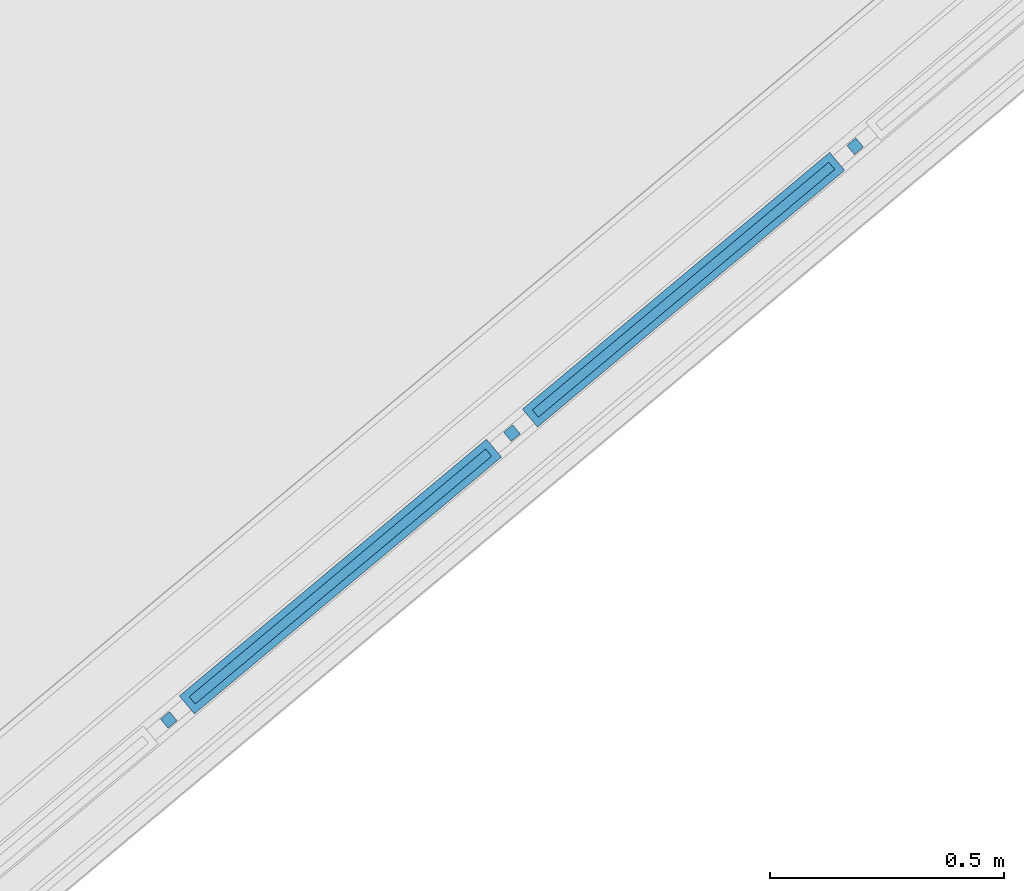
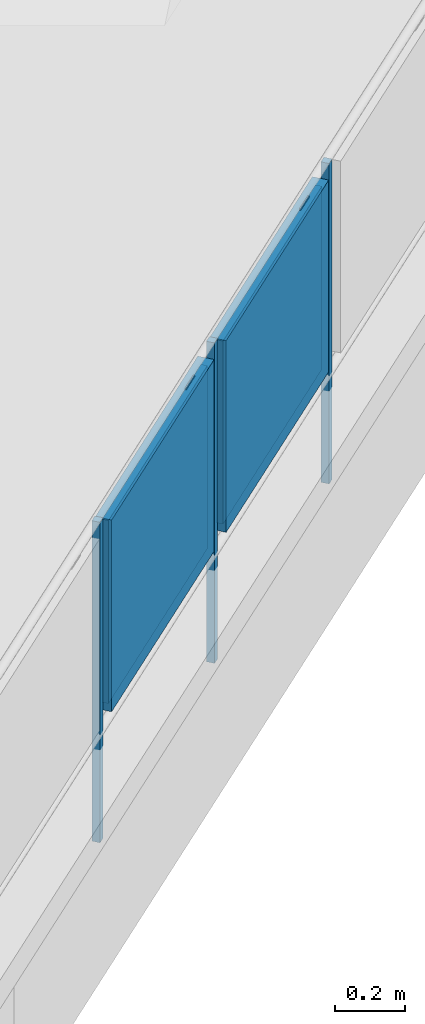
# One storey, part 19 of 53: 7 building element parts, 1 element without a shape of its own.
"""IFC4 building model written with IfcOpenShell, lengths in metres."""

import ifcopenshell
import ifcopenshell.guid

model = None  # the IFC model being written
_history = None  # IfcOwnerHistory: only IFC2X3 demands one
_inside = {}  # id of a spatial element -> (the spatial element, [elements in it])
_under = {}  # id of a project, library or spatial element -> (it, [spatial elements below it])
_declared = {}  # id of a project -> (the project, [libraries it declares])
_typed = {}  # id of a type object -> (the type object, [elements of that type])
_made_of = {}  # id of a material, layer set ... -> (it, [elements and type objects made of it])


def new_model(schema):
    """Start an empty IFC model of exactly this schema.

    Asked for "IFC4X3", IfcOpenShell would pick the latest addendum, in which some entities
    have other attributes; the version numbers below select the first issue.
    IFC2X3 requires an IfcOwnerHistory on every rooted entity: one is made here for all.
    """
    global model, _history
    if schema == "IFC4X3":
        model = ifcopenshell.file(schema_version=(4, 3, 0, 0))
    else:
        model = ifcopenshell.file(schema=schema)
    _inside.clear()
    _under.clear()
    _declared.clear()
    _typed.clear()
    _made_of.clear()
    _history = None
    if model.schema == "IFC2X3":
        org = make("IfcOrganization", Name="unknown")
        user = make(
            "IfcPersonAndOrganization",
            ThePerson=make("IfcPerson", FamilyName="unknown"),
            TheOrganization=org,
        )
        app = make(
            "IfcApplication",
            ApplicationDeveloper=org,
            Version="unknown",
            ApplicationFullName="unknown",
            ApplicationIdentifier="unknown",
        )
        _history = make(
            "IfcOwnerHistory",
            OwningUser=user,
            OwningApplication=app,
            ChangeAction="ADDED",
            CreationDate=0,
        )
    return model


def make(cls, **values):
    """One entity of the class cls with the attributes given. An attribute that is None is left unset."""
    return model.create_entity(
        cls, **{name: value for name, value in values.items() if value is not None}
    )


def entity(cls, *values):
    """Any entity or typed value of the class cls, its attributes in the order of the schema. None: left unset."""
    e = model.create_entity(cls)
    for i, value in enumerate(values):
        if value is not None:
            e[i] = value
    return e


def rooted(cls, **values):
    """An entity with a GlobalId (a new one), such as an element, a storey or a relation."""
    return make(cls, GlobalId=ifcopenshell.guid.new(), OwnerHistory=_history, **values)


def si_unit(unit_type, name, prefix=None):
    """IfcSIUnit, for example si_unit("LENGTHUNIT", "METRE", prefix="MILLI")."""
    return make("IfcSIUnit", UnitType=unit_type, Prefix=prefix, Name=name)


def converted_unit(unit_type, name, factor, base, dimensions=None, offset=None):
    """IfcConversionBasedUnit, such as the inch: factor (a typed value) times the base unit."""
    return make(
        "IfcConversionBasedUnit"
        if offset is None
        else "IfcConversionBasedUnitWithOffset",
        ConversionOffset=offset,
        Dimensions=None
        if dimensions is None
        else entity("IfcDimensionalExponents", *dimensions),
        UnitType=unit_type,
        Name=name,
        ConversionFactor=make(
            "IfcMeasureWithUnit", ValueComponent=factor, UnitComponent=base
        ),
    )


def derived_unit(unit_type, elements):
    """IfcDerivedUnit: a product of units, each with its exponent."""
    return make(
        "IfcDerivedUnit",
        Elements=[
            make("IfcDerivedUnitElement", Unit=unit, Exponent=power)
            for unit, power in elements
        ],
        UnitType=unit_type,
    )


def assignment(units):
    """IfcUnitAssignment: the units of a project."""
    return None if units is None else make("IfcUnitAssignment", Units=units)


def point(xyz):
    """IfcCartesianPoint."""
    return None if xyz is None else make("IfcCartesianPoint", Coordinates=xyz)


def direction(xyz):
    """IfcDirection."""
    return None if xyz is None else make("IfcDirection", DirectionRatios=xyz)


def frame(location, z_axis=None, x_axis=None):
    """IfcAxis2Placement3D, a coordinate frame: its origin and axes. An axis left out is left unset."""
    return make(
        "IfcAxis2Placement3D",
        Location=point(location),
        Axis=direction(z_axis),
        RefDirection=direction(x_axis),
    )


def origin_with_axes():
    """The frame at (0, 0, 0) with the z axis (0, 0, 1) and the x axis (1, 0, 0) written out."""
    return frame((0.0, 0.0, 0.0), z_axis=(0.0, 0.0, 1.0), x_axis=(1.0, 0.0, 0.0))


def place(relative_to, where):
    """IfcLocalPlacement: puts the frame where relative to a parent placement (None: the world)."""
    return make(
        "IfcLocalPlacement", PlacementRelTo=relative_to, RelativePlacement=where
    )


def context(
    kind, dimensions, precision=None, world=None, true_north=None, identifier=None
):
    """IfcGeometricRepresentationContext, for example the 3D "Model" context."""
    return make(
        "IfcGeometricRepresentationContext",
        ContextIdentifier=identifier,
        ContextType=kind,
        CoordinateSpaceDimension=dimensions,
        Precision=precision,
        WorldCoordinateSystem=world,
        TrueNorth=true_north,
    )


def subcontext(parent, identifier, kind, view, scale=None):
    """IfcGeometricRepresentationSubContext, for example "Body" below "Model"."""
    return make(
        "IfcGeometricRepresentationSubContext",
        ContextIdentifier=identifier,
        ContextType=kind,
        ParentContext=parent,
        TargetScale=scale,
        TargetView=view,
    )


def project(units=None, contexts=None):
    """IfcProject with its units and contexts."""
    return rooted(
        "IfcProject",
        Name="project",
        RepresentationContexts=contexts,
        UnitsInContext=assignment(units),
    )


def spatial(cls, under=None, at=None, **own):
    """A site, building, storey or space (cls), placed at a placement, below another one or the project."""
    s = rooted(cls, ObjectPlacement=at, **own)
    if under is not None:
        _under.setdefault(under.id(), (under, []))[1].append(s)
    return s


def point_list(points):
    """IfcCartesianPointList2D or 3D."""
    cls = (
        "IfcCartesianPointList2D" if len(points[0]) == 2 else "IfcCartesianPointList3D"
    )
    return make(cls, CoordList=points)


def polygons(points, faces, closed=None, point_numbers=None):
    """IfcPolygonalFaceSet: a face is its outer loop, then its inner loops; points numbered from 1."""
    made = []
    for loops in faces:
        if len(loops) == 1:
            made.append(make("IfcIndexedPolygonalFace", CoordIndex=loops[0]))
        else:
            made.append(
                make(
                    "IfcIndexedPolygonalFaceWithVoids",
                    CoordIndex=loops[0],
                    InnerCoordIndices=loops[1:],
                )
            )
    return make(
        "IfcPolygonalFaceSet",
        Coordinates=point_list(points),
        Closed=closed,
        Faces=made,
        PnIndex=point_numbers,
    )


def shape(context_of_items, identifier, shape_type, items):
    """IfcShapeRepresentation: the items that make up one representation, for example the "Body"."""
    return make(
        "IfcShapeRepresentation",
        ContextOfItems=context_of_items,
        RepresentationIdentifier=identifier,
        RepresentationType=shape_type,
        Items=items,
    )


def material(Name=None, Category=None):
    """IfcMaterial."""
    return make("IfcMaterial", Name=Name, Category=Category)


def made_of(thing, what):
    """Note that an element or type object is made of a material, layer set ...; save() writes the relation."""
    if what is not None:
        _made_of.setdefault(what.id(), (what, []))[1].append(thing)
    return thing


def type_object(cls, material=None, **own):
    """A type object (cls), such as IfcWallType, which elements share."""
    return made_of(rooted(cls, **own), material)


def element(
    cls,
    number,
    at=None,
    inside=None,
    cuts=None,
    type_object=None,
    material=None,
    context=None,
    identifier="Body",
    shape_type=None,
    held_by="IfcProductDefinitionShape",
    body=None,
    shapes=None,
    **own,
):
    """One element of the class cls, such as IfcWall. Its Tag is "e" and its number.

    at: its placement. inside: the storey or other place that contains it. cuts: it is an
    opening in that element (IfcRelVoidsElement). A single representation is given by context,
    identifier, shape_type and body (its items); several are given by shapes. held_by: the class
    of the entity that holds the representations. save() writes the other relations.
    """
    e = rooted(cls, Tag="e%d" % number, ObjectPlacement=at, **own)
    if body is not None:
        shapes = [shape(context, identifier, shape_type, body)]
    if shapes is not None:
        e.Representation = make(held_by, Representations=shapes)
    if inside is not None:
        _inside.setdefault(inside.id(), (inside, []))[1].append(e)
    if cuts is not None:
        rooted(
            "IfcRelVoidsElement", RelatingBuildingElement=cuts, RelatedOpeningElement=e
        )
    if type_object is not None:
        _typed.setdefault(type_object.id(), (type_object, []))[1].append(e)
    return made_of(e, material)


def aggregate(whole, parts):
    """IfcRelAggregates: a whole, such as a stair, and the parts it consists of."""
    return rooted("IfcRelAggregates", RelatingObject=whole, RelatedObjects=parts)


def save(model, path):
    """Write the relations noted so far, then the file.

    IfcRelAggregates (storeys below a building ...), IfcRelContainedInSpatialStructure (elements
    in a storey), IfcRelDefinesByType, IfcRelAssociatesMaterial and IfcRelDeclares: one each for
    every whole, place, type object, material and project.
    """
    for whole, parts in _under.values():
        aggregate(whole, parts)
    for where, things in _inside.values():
        rooted(
            "IfcRelContainedInSpatialStructure",
            RelatedElements=things,
            RelatingStructure=where,
        )
    for kind, things in _typed.values():
        rooted("IfcRelDefinesByType", RelatedObjects=things, RelatingType=kind)
    for what, things in _made_of.values():
        rooted("IfcRelAssociatesMaterial", RelatedObjects=things, RelatingMaterial=what)
    for by, libraries in _declared.values():
        rooted("IfcRelDeclares", RelatingContext=by, RelatedDefinitions=libraries)
    model.write(path)


model = new_model("IFC4")

# Units and contexts
model_context = context("Model", 3, precision=1e-05, world=origin_with_axes(), true_north=direction((0.0, 1.0)))
body_context = subcontext(model_context, "Body", "Model", "MODEL_VIEW")
ifc_project = project(units=[si_unit("LENGTHUNIT", "METRE"), si_unit("AREAUNIT", "SQUARE_METRE"), si_unit("VOLUMEUNIT", "CUBIC_METRE"), converted_unit("PLANEANGLEUNIT", "DEGREE", entity("IfcPlaneAngleMeasure", 0.0174532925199), si_unit("PLANEANGLEUNIT", "RADIAN"), dimensions=[0, 0, 0, 0, 0, 0, 0]), converted_unit("TIMEUNIT", "Year", entity("IfcTimeMeasure", 31556926.0), si_unit("TIMEUNIT", "SECOND"), dimensions=[0, 0, 1, 0, 0, 0, 0]), si_unit("MASSUNIT", "GRAM", prefix="KILO"), si_unit("THERMODYNAMICTEMPERATUREUNIT", "DEGREE_CELSIUS"), si_unit("LUMINOUSINTENSITYUNIT", "LUMEN"), si_unit("ENERGYUNIT", "JOULE", prefix="MEGA"), derived_unit("THERMALCONDUCTANCEUNIT", [(si_unit("POWERUNIT", "WATT"), 1), (si_unit("LENGTHUNIT", "METRE"), -1), (si_unit("THERMODYNAMICTEMPERATUREUNIT", "KELVIN"), -1)]), derived_unit("SPECIFICHEATCAPACITYUNIT", [(si_unit("ENERGYUNIT", "JOULE"), 1), (si_unit("MASSUNIT", "GRAM", prefix="KILO"), -1), (si_unit("THERMODYNAMICTEMPERATUREUNIT", "KELVIN"), -1)]), derived_unit("MASSDENSITYUNIT", [(si_unit("MASSUNIT", "GRAM", prefix="KILO"), 1), (si_unit("VOLUMEUNIT", "CUBIC_METRE"), -1)])], contexts=[model_context])

# Site, building, storey, space
site_placement = place(None, frame((-0.00153261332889, -0.00661245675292, 0.0), z_axis=(0.0, 0.0, 1.0), x_axis=(1.0, 0.0, 0.0)))
site = spatial("IfcSite", under=ifc_project, at=site_placement, Name="Gelände", CompositionType="ELEMENT")
building_placement = place(site_placement, origin_with_axes())
building = spatial("IfcBuilding", under=site, at=building_placement, Name="Gebäude", CompositionType="ELEMENT")
storey_placement = place(building_placement, frame((0.0, 0.0, 2.74), z_axis=(0.0, 0.0, 1.0), x_axis=(1.0, 0.0, 0.0)))
storey = spatial("IfcBuildingStorey", under=building, at=storey_placement, Name="OG1", CompositionType="ELEMENT", Elevation=2.74)
space_placement = place(storey_placement, frame((5.82112883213, 13.939405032, 0.22), z_axis=(0.0, 0.0, 1.0), x_axis=(-0.766948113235, -0.641709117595, 0.0)))
space = spatial("IfcSpace", under=storey, at=space_placement, CompositionType="ELEMENT", PredefinedType="NOTDEFINED")

# Railing, building element parts
railing_type = type_object("IfcRailingType", Name="Geländerart", PredefinedType="NOTDEFINED")
railing_placement = place(space_placement, frame((8.7233739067, 0.0, 0.16), z_axis=(0.0, 0.0, 1.0), x_axis=(-0.766948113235, 0.641709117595, 0.0)))
railing = element("IfcRailing", 1, at=railing_placement, inside=space, type_object=railing_type, Name="Geländer - 001", PredefinedType="NOTDEFINED")
ifc_material_1 = material(Name="Aluminium")
building_element_part_1_placement = place(railing_placement, origin_with_axes())
building_element_part_1 = element("IfcBuildingElementPart", 2, at=building_element_part_1_placement, material=ifc_material_1, Name="Aluminium", PredefinedType="NOTDEFINED", context=body_context, shape_type="Tessellation", body=[
    polygons([(2.17791029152, -1.02276528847, -0.3), (2.1618777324, -1.00358308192, -0.3), (2.1618777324, -1.00358308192, 0.82), (2.17791029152, -1.02276528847, 0.82), (2.15872808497, -1.03879784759, -0.3), (2.14269552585, -1.01961564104, -0.3), (2.14269552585, -1.01961564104, 0.82), (2.15872808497, -1.03879784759, 0.82)], [[[1, 2, 3, 4]], [[1, 5, 6, 2]], [[2, 6, 7, 3]], [[4, 3, 7, 8]], [[5, 1, 4, 8]], [[6, 5, 8, 7]]], closed=True),
])
ifc_material_2 = material(Name="Profilit")
building_element_part_2_placement = place(railing_placement, origin_with_axes())
building_element_part_2 = element("IfcBuildingElementPart", 3, at=building_element_part_2_placement, material=ifc_material_2, Name="Profilit", PredefinedType="NOTDEFINED", context=body_context, shape_type="Tessellation", body=[
    polygons([(2.83575683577, -0.443610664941, 0.135), (2.20376362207, -0.971832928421, 0.135), (2.20376362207, -0.971832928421, 0.775), (2.83575683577, -0.443610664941, 0.775), (2.21658966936, -0.98717869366, 0.135), (2.84858288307, -0.45895643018, 0.135), (2.21658966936, -0.98717869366, 0.775), (2.84858288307, -0.45895643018, 0.775)], [[[1, 2, 3, 4]], [[5, 2, 1, 6]], [[7, 3, 2, 5]], [[4, 3, 7, 8]], [[1, 4, 8, 6]], [[7, 5, 6, 8]]], closed=True),
])
building_element_part_3_placement = place(railing_placement, origin_with_axes())
building_element_part_3 = element("IfcBuildingElementPart", 4, at=building_element_part_3_placement, material=ifc_material_1, Name="Aluminium", PredefinedType="NOTDEFINED", context=body_context, shape_type="Tessellation", body=[
    polygons([(2.27379289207, -0.92307688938, 0.12), (2.32750307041, -0.878185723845, 0.12), (2.32750307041, -0.878185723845, 0.095), (2.27379289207, -0.92307688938, 0.095), (2.27699940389, -0.926913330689, 0.12), (2.33070958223, -0.882022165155, 0.12), (2.33070958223, -0.882022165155, 0.095), (2.27699940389, -0.926913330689, 0.095)], [[[1, 2, 3, 4]], [[5, 6, 2, 1]], [[2, 6, 7, 3]], [[4, 3, 7, 8]], [[1, 4, 8, 5]], [[8, 7, 6, 5]]], closed=True),
    polygons([(2.77534710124, -0.503876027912, 0.79), (2.7216369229, -0.548767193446, 0.79), (2.7216369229, -0.548767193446, 0.795), (2.77534710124, -0.503876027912, 0.795), (2.77855361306, -0.507712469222, 0.79), (2.72484343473, -0.552603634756, 0.79), (2.72484343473, -0.552603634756, 0.795), (2.77855361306, -0.507712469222, 0.795)], [[[1, 2, 3, 4]], [[5, 6, 2, 1]], [[2, 6, 7, 3]], [[4, 3, 7, 8]], [[1, 4, 8, 5]], [[8, 7, 6, 5]]], closed=True),
    polygons([(2.21469988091, -1.00830755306, 0.12), (2.18263476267, -0.969943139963, 0.12), (2.83764662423, -0.42248180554, 0.12), (2.86971174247, -0.460846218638, 0.12), (2.23004564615, -0.995481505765, 0.14), (2.22042611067, -0.983972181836, 0.14), (2.21658966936, -0.98717869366, 0.135), (2.20376362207, -0.971832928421, 0.135), (2.20760006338, -0.968626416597, 0.14), (2.19798052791, -0.957117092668, 0.14), (2.82230085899, -0.435307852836, 0.14), (2.82230085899, -0.435307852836, 0.77), (2.19798052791, -0.957117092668, 0.77), (2.19798052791, -0.957117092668, 0.14), (2.18263476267, -0.969943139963, 0.12), (2.18263476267, -0.969943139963, 0.79), (2.83764662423, -0.42248180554, 0.79), (2.86971174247, -0.460846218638, 0.79), (2.21469988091, -1.00830755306, 0.79), (2.21469988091, -1.00830755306, 0.12), (2.23004564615, -0.995481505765, 0.14), (2.23004564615, -0.995481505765, 0.77), (2.85436597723, -0.473672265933, 0.77), (2.85436597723, -0.473672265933, 0.14), (2.84474644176, -0.462162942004, 0.14), (2.84474644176, -0.462162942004, 0.77), (2.22042611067, -0.983972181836, 0.77), (2.22042611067, -0.983972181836, 0.14), (2.21658966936, -0.98717869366, 0.135), (2.21658966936, -0.98717869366, 0.775), (2.84858288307, -0.45895643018, 0.775), (2.84858288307, -0.45895643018, 0.135), (2.83575683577, -0.443610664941, 0.135), (2.83575683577, -0.443610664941, 0.775), (2.20376362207, -0.971832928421, 0.775), (2.20376362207, -0.971832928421, 0.135), (2.20760006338, -0.968626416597, 0.14), (2.20760006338, -0.968626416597, 0.77), (2.83192039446, -0.446817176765, 0.77), (2.83192039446, -0.446817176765, 0.14)], [[[1, 2, 3, 4]], [[1, 5, 6, 7, 8, 9, 10, 2]], [[2, 10, 11, 12, 13, 14, 15, 16, 17, 3]], [[4, 3, 17, 18]], [[5, 1, 4, 18, 19, 20, 21, 22, 23, 24]], [[6, 5, 24, 25]], [[7, 6, 25, 26, 27, 28, 29, 30, 31, 32]], [[8, 7, 32, 33]], [[9, 8, 33, 34, 35, 36, 37, 38, 39, 40]], [[10, 9, 40, 11]], [[11, 40, 39, 12]], [[12, 39, 38, 13]], [[13, 38, 37, 14]], [[20, 15, 14, 37, 36, 29, 28, 21]], [[19, 16, 15, 20]], [[18, 17, 16, 19]], [[27, 22, 21, 28]], [[26, 23, 22, 27]], [[25, 24, 23, 26]], [[35, 30, 29, 36]], [[34, 31, 30, 35]], [[33, 32, 31, 34]]], closed=True),
])
building_element_part_4_placement = place(railing_placement, origin_with_axes())
building_element_part_4 = element("IfcBuildingElementPart", 5, at=building_element_part_4_placement, material=ifc_material_1, Name="Aluminium", PredefinedType="NOTDEFINED", context=body_context, shape_type="Tessellation", body=[
    polygons([(2.90965097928, -0.411173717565, -0.3), (2.89361842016, -0.391991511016, -0.3), (2.89361842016, -0.391991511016, 0.82), (2.90965097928, -0.411173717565, 0.82), (2.89046877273, -0.427206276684, -0.3), (2.87443621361, -0.408024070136, -0.3), (2.87443621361, -0.408024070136, 0.82), (2.89046877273, -0.427206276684, 0.82)], [[[1, 2, 3, 4]], [[1, 5, 6, 2]], [[2, 6, 7, 3]], [[4, 3, 7, 8]], [[5, 1, 4, 8]], [[6, 5, 8, 7]]], closed=True),
])
building_element_part_5_placement = place(railing_placement, origin_with_axes())
building_element_part_5 = element("IfcBuildingElementPart", 6, at=building_element_part_5_placement, material=ifc_material_2, Name="Profilit", PredefinedType="NOTDEFINED", context=body_context, shape_type="Tessellation", body=[
    polygons([(3.56749752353, 0.167980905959, 0.135), (2.93550430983, -0.36024135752, 0.135), (2.93550430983, -0.36024135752, 0.775), (3.56749752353, 0.167980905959, 0.775), (2.94833035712, -0.375587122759, 0.135), (3.58032357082, 0.15263514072, 0.135), (2.94833035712, -0.375587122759, 0.775), (3.58032357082, 0.15263514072, 0.775)], [[[1, 2, 3, 4]], [[5, 2, 1, 6]], [[7, 3, 2, 5]], [[4, 3, 7, 8]], [[1, 4, 8, 6]], [[7, 5, 6, 8]]], closed=True),
])
building_element_part_6_placement = place(railing_placement, origin_with_axes())
building_element_part_6 = element("IfcBuildingElementPart", 7, at=building_element_part_6_placement, material=ifc_material_1, Name="Aluminium", PredefinedType="NOTDEFINED", context=body_context, shape_type="Tessellation", body=[
    polygons([(3.00553357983, -0.311485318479, 0.12), (3.05924375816, -0.266594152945, 0.12), (3.05924375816, -0.266594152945, 0.095), (3.00553357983, -0.311485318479, 0.095), (3.00874009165, -0.315321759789, 0.12), (3.06245026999, -0.270430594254, 0.12), (3.06245026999, -0.270430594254, 0.095), (3.00874009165, -0.315321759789, 0.095)], [[[1, 2, 3, 4]], [[5, 6, 2, 1]], [[2, 6, 7, 3]], [[4, 3, 7, 8]], [[1, 4, 8, 5]], [[8, 7, 6, 5]]], closed=True),
    polygons([(3.507087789, 0.107715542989, 0.79), (3.45337761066, 0.0628243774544, 0.79), (3.45337761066, 0.0628243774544, 0.795), (3.507087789, 0.107715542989, 0.795), (3.51029430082, 0.103879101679, 0.79), (3.45658412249, 0.0589879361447, 0.79), (3.45658412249, 0.0589879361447, 0.795), (3.51029430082, 0.103879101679, 0.795)], [[[1, 2, 3, 4]], [[5, 6, 2, 1]], [[2, 6, 7, 3]], [[4, 3, 7, 8]], [[1, 4, 8, 5]], [[8, 7, 6, 5]]], closed=True),
    polygons([(2.94644056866, -0.39671598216, 0.12), (2.91437545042, -0.358351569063, 0.12), (3.56938731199, 0.18910976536, 0.12), (3.60145243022, 0.150745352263, 0.12), (2.9617863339, -0.383889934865, 0.14), (2.95216679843, -0.372380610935, 0.14), (2.94833035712, -0.375587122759, 0.135), (2.93550430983, -0.36024135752, 0.135), (2.93934075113, -0.357034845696, 0.14), (2.92972121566, -0.345525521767, 0.14), (3.55404154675, 0.176283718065, 0.14), (3.55404154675, 0.176283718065, 0.77), (2.92972121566, -0.345525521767, 0.77), (2.92972121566, -0.345525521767, 0.14), (2.91437545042, -0.358351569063, 0.12), (2.91437545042, -0.358351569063, 0.79), (3.56938731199, 0.18910976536, 0.79), (3.60145243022, 0.150745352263, 0.79), (2.94644056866, -0.39671598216, 0.79), (2.94644056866, -0.39671598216, 0.12), (2.9617863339, -0.383889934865, 0.14), (2.9617863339, -0.383889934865, 0.77), (3.58610666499, 0.137919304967, 0.77), (3.58610666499, 0.137919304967, 0.14), (3.57648712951, 0.149428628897, 0.14), (3.57648712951, 0.149428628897, 0.77), (2.95216679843, -0.372380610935, 0.77), (2.95216679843, -0.372380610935, 0.14), (2.94833035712, -0.375587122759, 0.135), (2.94833035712, -0.375587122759, 0.775), (3.58032357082, 0.15263514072, 0.775), (3.58032357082, 0.15263514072, 0.135), (3.56749752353, 0.167980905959, 0.135), (3.56749752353, 0.167980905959, 0.775), (2.93550430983, -0.36024135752, 0.775), (2.93550430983, -0.36024135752, 0.135), (2.93934075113, -0.357034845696, 0.14), (2.93934075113, -0.357034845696, 0.77), (3.56366108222, 0.164774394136, 0.77), (3.56366108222, 0.164774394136, 0.14)], [[[1, 2, 3, 4]], [[1, 5, 6, 7, 8, 9, 10, 2]], [[2, 10, 11, 12, 13, 14, 15, 16, 17, 3]], [[4, 3, 17, 18]], [[5, 1, 4, 18, 19, 20, 21, 22, 23, 24]], [[6, 5, 24, 25]], [[7, 6, 25, 26, 27, 28, 29, 30, 31, 32]], [[8, 7, 32, 33]], [[9, 8, 33, 34, 35, 36, 37, 38, 39, 40]], [[10, 9, 40, 11]], [[11, 40, 39, 12]], [[12, 39, 38, 13]], [[13, 38, 37, 14]], [[20, 15, 14, 37, 36, 29, 28, 21]], [[19, 16, 15, 20]], [[18, 17, 16, 19]], [[27, 22, 21, 28]], [[26, 23, 22, 27]], [[25, 24, 23, 26]], [[35, 30, 29, 36]], [[34, 31, 30, 35]], [[33, 32, 31, 34]]], closed=True),
])
building_element_part_7_placement = place(railing_placement, origin_with_axes())
building_element_part_7 = element("IfcBuildingElementPart", 8, at=building_element_part_7_placement, material=ifc_material_1, Name="Aluminium", PredefinedType="NOTDEFINED", context=body_context, shape_type="Tessellation", body=[
    polygons([(3.64139166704, 0.200417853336, -0.3), (3.62535910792, 0.219600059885, -0.3), (3.62535910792, 0.219600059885, 0.82), (3.64139166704, 0.200417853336, 0.82), (3.62220946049, 0.184385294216, -0.3), (3.60617690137, 0.203567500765, -0.3), (3.60617690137, 0.203567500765, 0.82), (3.62220946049, 0.184385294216, 0.82)], [[[1, 2, 3, 4]], [[1, 5, 6, 2]], [[2, 6, 7, 3]], [[4, 3, 7, 8]], [[5, 1, 4, 8]], [[6, 5, 8, 7]]], closed=True),
])
aggregate(railing, [building_element_part_1, building_element_part_2, building_element_part_3, building_element_part_4, building_element_part_5, building_element_part_6, building_element_part_7])

save(model, "model.ifc")
